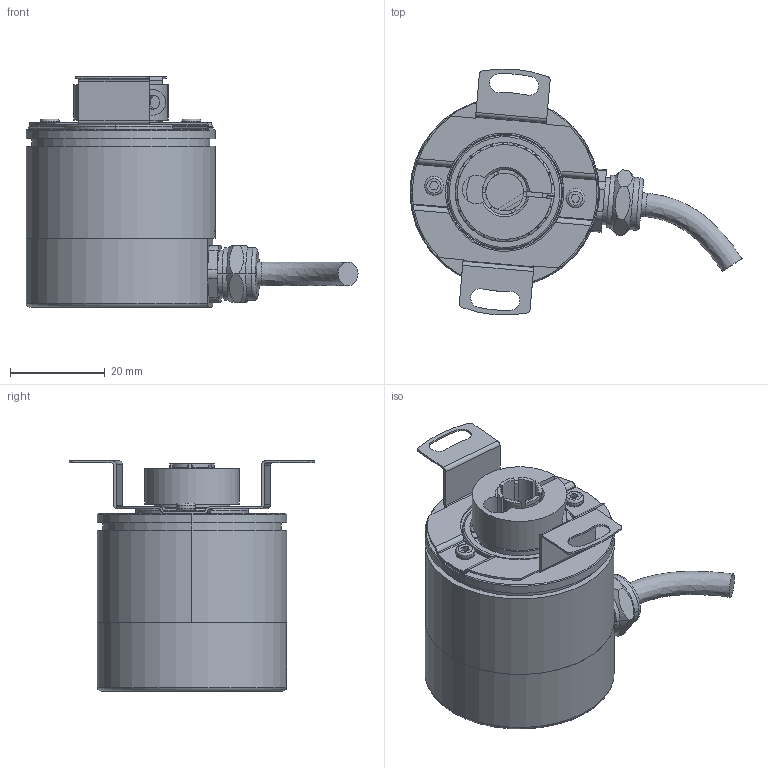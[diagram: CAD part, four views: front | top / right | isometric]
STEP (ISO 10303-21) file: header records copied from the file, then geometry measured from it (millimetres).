
FILE_DESCRIPTION(/* description */ (''),/* implementation_level */ '2;1');
FILE_NAME(/* name */ '10 编码器 IP68-BRT38B-8mm 抱箍_stp.stp',/* time_stamp */ '2024-06-13T10:33:14+08:00',/* author */ (''),/* organization */ (''),/* preprocessor_version */ 'ST-DEVELOPER v16.7',/* originating_system */ 'SIEMENS PLM Software NX 12.0',/* authorisation */ '');
FILE_SCHEMA (('AP203_CONFIGURATION_CONTROLLED_3D_DESIGN_OF_MECHANICAL_PARTS_AND_ASSEMBLIES_MIM_LF { 1 0 10303 403 2 1 2}'));
Length unit declared in the file: millimetre
Products named in the file (1): Li Y502C912Ezxfq
Bounding box: 70.11 x 51.94 x 48.6 mm (x, y, z)
Volume: 29958.9 mm3; surface area: 30805.3 mm2
Topology: 12 solids, 12 shells, 524 faces, 1717 edges, 1065 vertices
Faces by surface type: cylinder 201, plane 133, torus 96, sphere 79, cone 14, bspline 1
Full cylindrical faces by diameter (mm): 4.021 x2, 5 x1, 6 x1
Entity records: 24856 total; most frequent: CARTESIAN_POINT 11010, ORIENTED_EDGE 2998, DIRECTION 2688, EDGE_CURVE 1499, AXIS2_PLACEMENT_3D 1144, VERTEX_POINT 1012, CIRCLE 647, EDGE_LOOP 577
